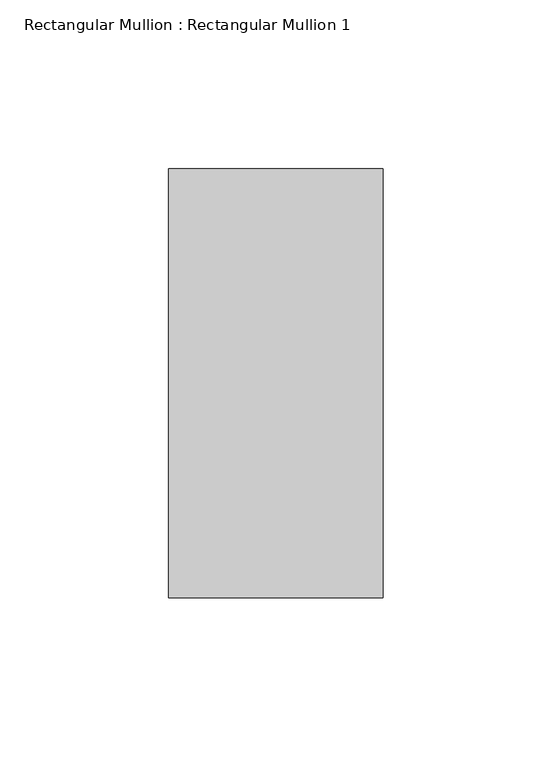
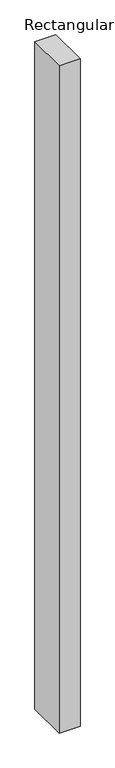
"""IFC4 building model written with IfcOpenShell, lengths in millimetres: member geometry, Rectangular Mullion : Rectangular Mullion 1."""

import ifcopenshell
import ifcopenshell.guid

model = None  # the IFC model being written
_history = None  # IfcOwnerHistory: only IFC2X3 demands one
_inside = {}  # id of a spatial element -> (the spatial element, [elements in it])
_under = {}  # id of a project, library or spatial element -> (it, [spatial elements below it])
_declared = {}  # id of a project -> (the project, [libraries it declares])
_typed = {}  # id of a type object -> (the type object, [elements of that type])
_made_of = {}  # id of a material, layer set ... -> (it, [elements and type objects made of it])


def new_model(schema):
    """Start an empty IFC model of exactly this schema.

    Asked for "IFC4X3", IfcOpenShell would pick the latest addendum, in which some entities
    have other attributes; the version numbers below select the first issue.
    IFC2X3 requires an IfcOwnerHistory on every rooted entity: one is made here for all.
    """
    global model, _history
    if schema == "IFC4X3":
        model = ifcopenshell.file(schema_version=(4, 3, 0, 0))
    else:
        model = ifcopenshell.file(schema=schema)
    _inside.clear()
    _under.clear()
    _declared.clear()
    _typed.clear()
    _made_of.clear()
    _history = None
    if model.schema == "IFC2X3":
        org = make("IfcOrganization", Name="unknown")
        user = make(
            "IfcPersonAndOrganization",
            ThePerson=make("IfcPerson", FamilyName="unknown"),
            TheOrganization=org,
        )
        app = make(
            "IfcApplication",
            ApplicationDeveloper=org,
            Version="unknown",
            ApplicationFullName="unknown",
            ApplicationIdentifier="unknown",
        )
        _history = make(
            "IfcOwnerHistory",
            OwningUser=user,
            OwningApplication=app,
            ChangeAction="ADDED",
            CreationDate=0,
        )
    return model


def make(cls, **values):
    """One entity of the class cls with the attributes given. An attribute that is None is left unset."""
    return model.create_entity(
        cls, **{name: value for name, value in values.items() if value is not None}
    )


def rooted(cls, **values):
    """An entity with a GlobalId (a new one), such as an element, a storey or a relation."""
    return make(cls, GlobalId=ifcopenshell.guid.new(), OwnerHistory=_history, **values)


def si_unit(unit_type, name, prefix=None):
    """IfcSIUnit, for example si_unit("LENGTHUNIT", "METRE", prefix="MILLI")."""
    return make("IfcSIUnit", UnitType=unit_type, Prefix=prefix, Name=name)


def assignment(units):
    """IfcUnitAssignment: the units of a project."""
    return None if units is None else make("IfcUnitAssignment", Units=units)


def point(xyz):
    """IfcCartesianPoint."""
    return None if xyz is None else make("IfcCartesianPoint", Coordinates=xyz)


def direction(xyz):
    """IfcDirection."""
    return None if xyz is None else make("IfcDirection", DirectionRatios=xyz)


def frame(location, z_axis=None, x_axis=None):
    """IfcAxis2Placement3D, a coordinate frame: its origin and axes. An axis left out is left unset."""
    return make(
        "IfcAxis2Placement3D",
        Location=point(location),
        Axis=direction(z_axis),
        RefDirection=direction(x_axis),
    )


def origin():
    """The frame at (0, 0, 0) with its axes left unset."""
    return frame((0.0, 0.0, 0.0))


def place(relative_to, where):
    """IfcLocalPlacement: puts the frame where relative to a parent placement (None: the world)."""
    return make(
        "IfcLocalPlacement", PlacementRelTo=relative_to, RelativePlacement=where
    )


def context(
    kind, dimensions, precision=None, world=None, true_north=None, identifier=None
):
    """IfcGeometricRepresentationContext, for example the 3D "Model" context."""
    return make(
        "IfcGeometricRepresentationContext",
        ContextIdentifier=identifier,
        ContextType=kind,
        CoordinateSpaceDimension=dimensions,
        Precision=precision,
        WorldCoordinateSystem=world,
        TrueNorth=true_north,
    )


def project(units=None, contexts=None):
    """IfcProject with its units and contexts."""
    return rooted(
        "IfcProject",
        Name="project",
        RepresentationContexts=contexts,
        UnitsInContext=assignment(units),
    )


def spatial(cls, under=None, at=None, **own):
    """A site, building, storey or space (cls), placed at a placement, below another one or the project."""
    s = rooted(cls, ObjectPlacement=at, **own)
    if under is not None:
        _under.setdefault(under.id(), (under, []))[1].append(s)
    return s


def polyline(points):
    """IfcPolyline through the points."""
    return make("IfcPolyline", Points=[point(p) for p in points])


def outline(outer, holes=None, kind="AREA"):
    """IfcArbitraryClosedProfileDef: a profile drawn as a closed curve; with holes, ...WithVoids."""
    if holes is None:
        return make("IfcArbitraryClosedProfileDef", ProfileType=kind, OuterCurve=outer)
    return make(
        "IfcArbitraryProfileDefWithVoids",
        ProfileType=kind,
        OuterCurve=outer,
        InnerCurves=holes,
    )


def extrude(swept, where, along, depth):
    """IfcExtrudedAreaSolid: the profile swept, set in the frame where, extruded along a direction by depth."""
    return make(
        "IfcExtrudedAreaSolid",
        SweptArea=swept,
        Position=where,
        ExtrudedDirection=direction(along),
        Depth=depth,
    )


def shape(context_of_items, identifier, shape_type, items):
    """IfcShapeRepresentation: the items that make up one representation, for example the "Body"."""
    return make(
        "IfcShapeRepresentation",
        ContextOfItems=context_of_items,
        RepresentationIdentifier=identifier,
        RepresentationType=shape_type,
        Items=items,
    )


def source(mapping_origin, context_of_items, identifier, shape_type, items):
    """IfcRepresentationMap: a shape defined once, which mapped items show again and again."""
    return make(
        "IfcRepresentationMap",
        MappingOrigin=mapping_origin,
        MappedRepresentation=shape(context_of_items, identifier, shape_type, items),
    )


def transform(
    local_origin,
    x_axis=None,
    y_axis=None,
    z_axis=None,
    scale=None,
    scale2=None,
    scale3=None,
    uniform=True,
):
    """IfcCartesianTransformationOperator3D, or its non-uniform kind. x_axis, y_axis, z_axis: its Axis1, 2, 3."""
    if uniform:
        return make(
            "IfcCartesianTransformationOperator3D",
            Axis1=direction(x_axis),
            Axis2=direction(y_axis),
            LocalOrigin=point(local_origin),
            Scale=scale,
            Axis3=direction(z_axis),
        )
    return make(
        "IfcCartesianTransformationOperator3DnonUniform",
        Axis1=direction(x_axis),
        Axis2=direction(y_axis),
        LocalOrigin=point(local_origin),
        Scale=scale,
        Axis3=direction(z_axis),
        Scale2=scale2,
        Scale3=scale3,
    )


def mapped(mapping_source, mapping_target):
    """IfcMappedItem: shows the shape of a source again, moved by a transform."""
    return make(
        "IfcMappedItem", MappingSource=mapping_source, MappingTarget=mapping_target
    )


def made_of(thing, what):
    """Note that an element or type object is made of a material, layer set ...; save() writes the relation."""
    if what is not None:
        _made_of.setdefault(what.id(), (what, []))[1].append(thing)
    return thing


def element(
    cls,
    number,
    at=None,
    inside=None,
    cuts=None,
    type_object=None,
    material=None,
    context=None,
    identifier="Body",
    shape_type=None,
    held_by="IfcProductDefinitionShape",
    body=None,
    shapes=None,
    **own,
):
    """One element of the class cls, such as IfcWall. Its Tag is "e" and its number.

    at: its placement. inside: the storey or other place that contains it. cuts: it is an
    opening in that element (IfcRelVoidsElement). A single representation is given by context,
    identifier, shape_type and body (its items); several are given by shapes. held_by: the class
    of the entity that holds the representations. save() writes the other relations.
    """
    e = rooted(cls, Tag="e%d" % number, ObjectPlacement=at, **own)
    if body is not None:
        shapes = [shape(context, identifier, shape_type, body)]
    if shapes is not None:
        e.Representation = make(held_by, Representations=shapes)
    if inside is not None:
        _inside.setdefault(inside.id(), (inside, []))[1].append(e)
    if cuts is not None:
        rooted(
            "IfcRelVoidsElement", RelatingBuildingElement=cuts, RelatedOpeningElement=e
        )
    if type_object is not None:
        _typed.setdefault(type_object.id(), (type_object, []))[1].append(e)
    return made_of(e, material)


def aggregate(whole, parts):
    """IfcRelAggregates: a whole, such as a stair, and the parts it consists of."""
    return rooted("IfcRelAggregates", RelatingObject=whole, RelatedObjects=parts)


def save(model, path):
    """Write the relations noted so far, then the file.

    IfcRelAggregates (storeys below a building ...), IfcRelContainedInSpatialStructure (elements
    in a storey), IfcRelDefinesByType, IfcRelAssociatesMaterial and IfcRelDeclares: one each for
    every whole, place, type object, material and project.
    """
    for whole, parts in _under.values():
        aggregate(whole, parts)
    for where, things in _inside.values():
        rooted(
            "IfcRelContainedInSpatialStructure",
            RelatedElements=things,
            RelatingStructure=where,
        )
    for kind, things in _typed.values():
        rooted("IfcRelDefinesByType", RelatedObjects=things, RelatingType=kind)
    for what, things in _made_of.values():
        rooted("IfcRelAssociatesMaterial", RelatedObjects=things, RelatingMaterial=what)
    for by, libraries in _declared.values():
        rooted("IfcRelDeclares", RelatingContext=by, RelatedDefinitions=libraries)
    model.write(path)


def rectangular_mullion_rectangular_mullion_1_b3dc08c2(model_context):
    return source(origin(), model_context, "Body", "SweptSolid", [
        extrude(outline(polyline([(0.0, 63.5), (0.0, -63.5), (-63.5, -63.5), (-63.5, 63.5), (0.0, 63.5)])), frame((0.0, 0.0, -2138.1357145), z_axis=(0.0, 0.0, 1.0), x_axis=(1.0, 0.0, 0.0)), (0.0, 0.0, 1.0), 2138.1357145),
    ])


if __name__ == "__main__":
    model = new_model("IFC4")
    model_context = context("Model", 3, world=origin())
    ifc_project = project(units=[si_unit("LENGTHUNIT", "METRE", prefix="MILLI")], contexts=[model_context])
    site = spatial("IfcSite", under=ifc_project)
    building = spatial("IfcBuilding", under=site)
    placement = place(None, origin())
    rectangular_mullion_rectangular_mullion_1_shape = rectangular_mullion_rectangular_mullion_1_b3dc08c2(model_context)
    element("IfcMember", 1, ObjectType="Rectangular Mullion : Rectangular Mullion 1", at=placement, inside=building, context=model_context, shape_type="MappedRepresentation", body=[
        mapped(rectangular_mullion_rectangular_mullion_1_shape, transform((0.0, 0.0, 0.0), x_axis=(1.0, 0.0, 0.0), y_axis=(0.0, 1.0, 0.0), z_axis=(0.0, 0.0, 1.0))),
    ])
    save(model, "model.ifc")
